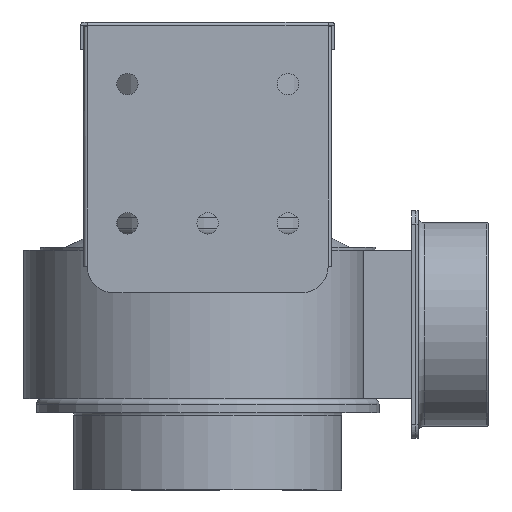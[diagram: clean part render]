
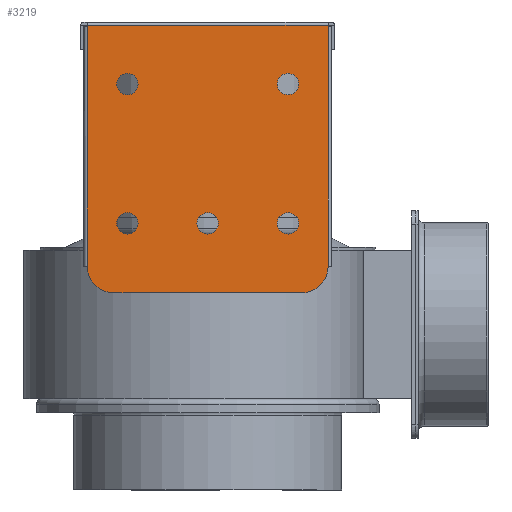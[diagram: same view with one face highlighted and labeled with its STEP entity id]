
A CAD part, front view. The second image highlights one B-rep face of the part: STEP entity #3219.
In plain terms, the highlighted planar face has unit normal (0, -1, 0).
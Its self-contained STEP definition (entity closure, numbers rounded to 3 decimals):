
#60=LINE('',#5364,#255);
#62=LINE('',#5380,#257);
#63=LINE('',#5382,#258);
#64=LINE('',#5384,#259);
#65=LINE('',#5386,#260);
#66=LINE('',#5388,#261);
#255=VECTOR('',#4355,1000.);
#257=VECTOR('',#4371,1000.);
#258=VECTOR('',#4372,1000.);
#259=VECTOR('',#4373,1000.);
#260=VECTOR('',#4374,1000.);
#261=VECTOR('',#4375,1000.);
#583=PLANE('',#3656);
#936=ORIENTED_EDGE('',*,*,#1694,.T.);
#937=ORIENTED_EDGE('',*,*,#1695,.T.);
#938=ORIENTED_EDGE('',*,*,#1696,.T.);
#939=ORIENTED_EDGE('',*,*,#1697,.T.);
#940=ORIENTED_EDGE('',*,*,#1698,.T.);
#941=ORIENTED_EDGE('',*,*,#1692,.F.);
#942=ORIENTED_EDGE('',*,*,#1699,.T.);
#943=ORIENTED_EDGE('',*,*,#1700,.T.);
#944=ORIENTED_EDGE('',*,*,#1701,.F.);
#945=ORIENTED_EDGE('',*,*,#1702,.T.);
#946=ORIENTED_EDGE('',*,*,#1703,.T.);
#947=ORIENTED_EDGE('',*,*,#1704,.T.);
#948=ORIENTED_EDGE('',*,*,#1705,.T.);
#1692=EDGE_CURVE('',#2104,#2105,#60,.T.);
#1694=EDGE_CURVE('',#2106,#2106,#2395,.T.);
#1695=EDGE_CURVE('',#2107,#2107,#2396,.T.);
#1696=EDGE_CURVE('',#2108,#2108,#2397,.T.);
#1697=EDGE_CURVE('',#2109,#2109,#2398,.T.);
#1698=EDGE_CURVE('',#2110,#2110,#2399,.T.);
#1699=EDGE_CURVE('',#2104,#2111,#2400,.F.);
#1700=EDGE_CURVE('',#2111,#2112,#62,.F.);
#1701=EDGE_CURVE('',#2113,#2112,#63,.T.);
#1702=EDGE_CURVE('',#2113,#2114,#64,.T.);
#1703=EDGE_CURVE('',#2114,#2115,#65,.T.);
#1704=EDGE_CURVE('',#2115,#2116,#66,.T.);
#1705=EDGE_CURVE('',#2116,#2105,#2401,.F.);
#2104=VERTEX_POINT('',#5363);
#2105=VERTEX_POINT('',#5365);
#2106=VERTEX_POINT('',#5369);
#2107=VERTEX_POINT('',#5371);
#2108=VERTEX_POINT('',#5373);
#2109=VERTEX_POINT('',#5375);
#2110=VERTEX_POINT('',#5377);
#2111=VERTEX_POINT('',#5379);
#2112=VERTEX_POINT('',#5381);
#2113=VERTEX_POINT('',#5383);
#2114=VERTEX_POINT('',#5385);
#2115=VERTEX_POINT('',#5387);
#2116=VERTEX_POINT('',#5389);
#2395=CIRCLE('',#3657,4.);
#2396=CIRCLE('',#3658,4.);
#2397=CIRCLE('',#3659,4.);
#2398=CIRCLE('',#3660,4.);
#2399=CIRCLE('',#3661,4.);
#2400=CIRCLE('',#3662,10.);
#2401=CIRCLE('',#3663,10.);
#2621=EDGE_LOOP('',(#936));
#2622=EDGE_LOOP('',(#937));
#2623=EDGE_LOOP('',(#938));
#2624=EDGE_LOOP('',(#939));
#2625=EDGE_LOOP('',(#940));
#2626=EDGE_LOOP('',(#941,#942,#943,#944,#945,#946,#947,#948));
#2960=FACE_BOUND('',#2621,.T.);
#2961=FACE_BOUND('',#2622,.T.);
#2962=FACE_BOUND('',#2623,.T.);
#2963=FACE_BOUND('',#2624,.T.);
#2964=FACE_BOUND('',#2625,.T.);
#2965=FACE_BOUND('',#2626,.T.);
#3219=ADVANCED_FACE('',(#2960,#2961,#2962,#2963,#2964,#2965),#583,.F.);
#3656=AXIS2_PLACEMENT_3D('',#5367,#4357,#4358);
#3657=AXIS2_PLACEMENT_3D('',#5368,#4359,#4360);
#3658=AXIS2_PLACEMENT_3D('',#5370,#4361,#4362);
#3659=AXIS2_PLACEMENT_3D('',#5372,#4363,#4364);
#3660=AXIS2_PLACEMENT_3D('',#5374,#4365,#4366);
#3661=AXIS2_PLACEMENT_3D('',#5376,#4367,#4368);
#3662=AXIS2_PLACEMENT_3D('',#5378,#4369,#4370);
#3663=AXIS2_PLACEMENT_3D('',#5390,#4376,#4377);
#4355=DIRECTION('',(0.,0.,1.));
#4357=DIRECTION('',(0.,1.,0.));
#4358=DIRECTION('',(-1.,0.,0.));
#4359=DIRECTION('',(0.,1.,0.));
#4360=DIRECTION('',(-1.,0.,0.));
#4361=DIRECTION('',(0.,1.,0.));
#4362=DIRECTION('',(-1.,0.,0.));
#4363=DIRECTION('',(0.,1.,0.));
#4364=DIRECTION('',(-1.,0.,0.));
#4365=DIRECTION('',(0.,1.,0.));
#4366=DIRECTION('',(-1.,0.,0.));
#4367=DIRECTION('',(0.,1.,0.));
#4368=DIRECTION('',(-1.,0.,0.));
#4369=DIRECTION('',(0.,1.,0.));
#4370=DIRECTION('',(-1.,0.,0.));
#4371=DIRECTION('',(-1.,0.,0.));
#4372=DIRECTION('',(-1.,0.,0.));
#4373=DIRECTION('',(0.,0.,1.));
#4374=DIRECTION('',(-1.,0.,0.));
#4375=DIRECTION('',(-1.,0.,0.));
#4376=DIRECTION('',(0.,1.,0.));
#4377=DIRECTION('',(-1.,0.,0.));
#5363=CARTESIAN_POINT('',(13.188,-134.824,-81.2));
#5364=CARTESIAN_POINT('',(13.188,-134.824,-92.4));
#5365=CARTESIAN_POINT('',(13.188,-134.824,-11.2));
#5367=CARTESIAN_POINT('',(113.188,-134.824,-92.4));
#5368=CARTESIAN_POINT('',(91.188,-134.824,-76.2));
#5369=CARTESIAN_POINT('',(87.188,-134.824,-76.2));
#5370=CARTESIAN_POINT('',(39.188,-134.824,-76.2));
#5371=CARTESIAN_POINT('',(35.188,-134.824,-76.2));
#5372=CARTESIAN_POINT('',(39.188,-134.824,-46.2));
#5373=CARTESIAN_POINT('',(35.188,-134.824,-46.2));
#5374=CARTESIAN_POINT('',(39.188,-134.824,-16.2));
#5375=CARTESIAN_POINT('',(35.188,-134.824,-16.2));
#5376=CARTESIAN_POINT('',(91.188,-134.824,-16.2));
#5377=CARTESIAN_POINT('',(87.188,-134.824,-16.2));
#5378=CARTESIAN_POINT('',(23.188,-134.824,-81.2));
#5379=CARTESIAN_POINT('',(23.188,-134.824,-91.2));
#5380=CARTESIAN_POINT('',(112.688,-134.824,-91.2));
#5381=CARTESIAN_POINT('',(112.688,-134.824,-91.2));
#5382=CARTESIAN_POINT('',(113.188,-134.824,-91.2));
#5383=CARTESIAN_POINT('',(113.188,-134.824,-91.2));
#5384=CARTESIAN_POINT('',(113.188,-134.824,-92.4));
#5385=CARTESIAN_POINT('',(113.188,-134.824,-1.2));
#5386=CARTESIAN_POINT('',(113.188,-134.824,-1.2));
#5387=CARTESIAN_POINT('',(112.726,-134.824,-1.2));
#5388=CARTESIAN_POINT('',(113.188,-134.824,-1.2));
#5389=CARTESIAN_POINT('',(23.188,-134.824,-1.2));
#5390=CARTESIAN_POINT('',(23.188,-134.824,-11.2));
